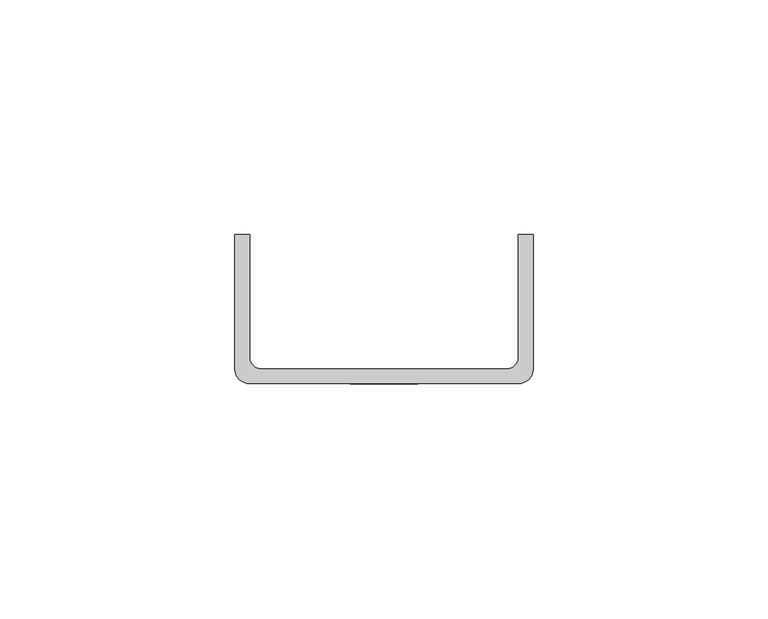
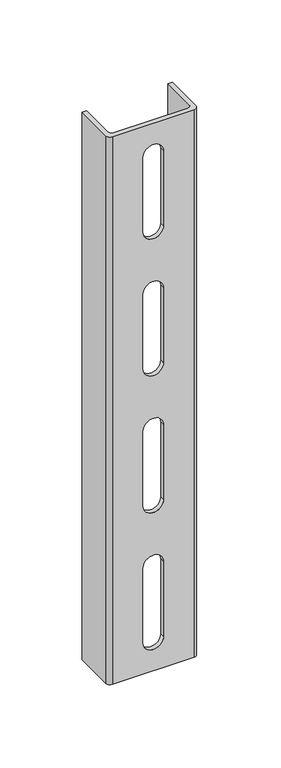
"""IFC4 building model written with IfcOpenShell, lengths in millimetres: proxy geometry, 14NSF-S13 : 14NSF-S13."""

import ifcopenshell
import ifcopenshell.guid

model = None  # the IFC model being written
_history = None  # IfcOwnerHistory: only IFC2X3 demands one
_inside = {}  # id of a spatial element -> (the spatial element, [elements in it])
_under = {}  # id of a project, library or spatial element -> (it, [spatial elements below it])
_declared = {}  # id of a project -> (the project, [libraries it declares])
_typed = {}  # id of a type object -> (the type object, [elements of that type])
_made_of = {}  # id of a material, layer set ... -> (it, [elements and type objects made of it])


def new_model(schema):
    """Start an empty IFC model of exactly this schema.

    Asked for "IFC4X3", IfcOpenShell would pick the latest addendum, in which some entities
    have other attributes; the version numbers below select the first issue.
    IFC2X3 requires an IfcOwnerHistory on every rooted entity: one is made here for all.
    """
    global model, _history
    if schema == "IFC4X3":
        model = ifcopenshell.file(schema_version=(4, 3, 0, 0))
    else:
        model = ifcopenshell.file(schema=schema)
    _inside.clear()
    _under.clear()
    _declared.clear()
    _typed.clear()
    _made_of.clear()
    _history = None
    if model.schema == "IFC2X3":
        org = make("IfcOrganization", Name="unknown")
        user = make(
            "IfcPersonAndOrganization",
            ThePerson=make("IfcPerson", FamilyName="unknown"),
            TheOrganization=org,
        )
        app = make(
            "IfcApplication",
            ApplicationDeveloper=org,
            Version="unknown",
            ApplicationFullName="unknown",
            ApplicationIdentifier="unknown",
        )
        _history = make(
            "IfcOwnerHistory",
            OwningUser=user,
            OwningApplication=app,
            ChangeAction="ADDED",
            CreationDate=0,
        )
    return model


def make(cls, **values):
    """One entity of the class cls with the attributes given. An attribute that is None is left unset."""
    return model.create_entity(
        cls, **{name: value for name, value in values.items() if value is not None}
    )


def rooted(cls, **values):
    """An entity with a GlobalId (a new one), such as an element, a storey or a relation."""
    return make(cls, GlobalId=ifcopenshell.guid.new(), OwnerHistory=_history, **values)


def si_unit(unit_type, name, prefix=None):
    """IfcSIUnit, for example si_unit("LENGTHUNIT", "METRE", prefix="MILLI")."""
    return make("IfcSIUnit", UnitType=unit_type, Prefix=prefix, Name=name)


def assignment(units):
    """IfcUnitAssignment: the units of a project."""
    return None if units is None else make("IfcUnitAssignment", Units=units)


def point(xyz):
    """IfcCartesianPoint."""
    return None if xyz is None else make("IfcCartesianPoint", Coordinates=xyz)


def direction(xyz):
    """IfcDirection."""
    return None if xyz is None else make("IfcDirection", DirectionRatios=xyz)


def frame(location, z_axis=None, x_axis=None):
    """IfcAxis2Placement3D, a coordinate frame: its origin and axes. An axis left out is left unset."""
    return make(
        "IfcAxis2Placement3D",
        Location=point(location),
        Axis=direction(z_axis),
        RefDirection=direction(x_axis),
    )


def origin():
    """The frame at (0, 0, 0) with its axes left unset."""
    return frame((0.0, 0.0, 0.0))


def place(relative_to, where):
    """IfcLocalPlacement: puts the frame where relative to a parent placement (None: the world)."""
    return make(
        "IfcLocalPlacement", PlacementRelTo=relative_to, RelativePlacement=where
    )


def context(
    kind, dimensions, precision=None, world=None, true_north=None, identifier=None
):
    """IfcGeometricRepresentationContext, for example the 3D "Model" context."""
    return make(
        "IfcGeometricRepresentationContext",
        ContextIdentifier=identifier,
        ContextType=kind,
        CoordinateSpaceDimension=dimensions,
        Precision=precision,
        WorldCoordinateSystem=world,
        TrueNorth=true_north,
    )


def project(units=None, contexts=None):
    """IfcProject with its units and contexts."""
    return rooted(
        "IfcProject",
        Name="project",
        RepresentationContexts=contexts,
        UnitsInContext=assignment(units),
    )


def spatial(cls, under=None, at=None, **own):
    """A site, building, storey or space (cls), placed at a placement, below another one or the project."""
    s = rooted(cls, ObjectPlacement=at, **own)
    if under is not None:
        _under.setdefault(under.id(), (under, []))[1].append(s)
    return s


def polyline(points):
    """IfcPolyline through the points."""
    return make("IfcPolyline", Points=[point(p) for p in points])


def circle_curve(where, radius):
    """IfcCircle in the frame where."""
    return make("IfcCircle", Position=where, Radius=radius)


def shape(context_of_items, identifier, shape_type, items):
    """IfcShapeRepresentation: the items that make up one representation, for example the "Body"."""
    return make(
        "IfcShapeRepresentation",
        ContextOfItems=context_of_items,
        RepresentationIdentifier=identifier,
        RepresentationType=shape_type,
        Items=items,
    )


def source(mapping_origin, context_of_items, identifier, shape_type, items):
    """IfcRepresentationMap: a shape defined once, which mapped items show again and again."""
    return make(
        "IfcRepresentationMap",
        MappingOrigin=mapping_origin,
        MappedRepresentation=shape(context_of_items, identifier, shape_type, items),
    )


def transform(
    local_origin,
    x_axis=None,
    y_axis=None,
    z_axis=None,
    scale=None,
    scale2=None,
    scale3=None,
    uniform=True,
):
    """IfcCartesianTransformationOperator3D, or its non-uniform kind. x_axis, y_axis, z_axis: its Axis1, 2, 3."""
    if uniform:
        return make(
            "IfcCartesianTransformationOperator3D",
            Axis1=direction(x_axis),
            Axis2=direction(y_axis),
            LocalOrigin=point(local_origin),
            Scale=scale,
            Axis3=direction(z_axis),
        )
    return make(
        "IfcCartesianTransformationOperator3DnonUniform",
        Axis1=direction(x_axis),
        Axis2=direction(y_axis),
        LocalOrigin=point(local_origin),
        Scale=scale,
        Axis3=direction(z_axis),
        Scale2=scale2,
        Scale3=scale3,
    )


def mapped(mapping_source, mapping_target):
    """IfcMappedItem: shows the shape of a source again, moved by a transform."""
    return make(
        "IfcMappedItem", MappingSource=mapping_source, MappingTarget=mapping_target
    )


def made_of(thing, what):
    """Note that an element or type object is made of a material, layer set ...; save() writes the relation."""
    if what is not None:
        _made_of.setdefault(what.id(), (what, []))[1].append(thing)
    return thing


def element(
    cls,
    number,
    at=None,
    inside=None,
    cuts=None,
    type_object=None,
    material=None,
    context=None,
    identifier="Body",
    shape_type=None,
    held_by="IfcProductDefinitionShape",
    body=None,
    shapes=None,
    **own,
):
    """One element of the class cls, such as IfcWall. Its Tag is "e" and its number.

    at: its placement. inside: the storey or other place that contains it. cuts: it is an
    opening in that element (IfcRelVoidsElement). A single representation is given by context,
    identifier, shape_type and body (its items); several are given by shapes. held_by: the class
    of the entity that holds the representations. save() writes the other relations.
    """
    e = rooted(cls, Tag="e%d" % number, ObjectPlacement=at, **own)
    if body is not None:
        shapes = [shape(context, identifier, shape_type, body)]
    if shapes is not None:
        e.Representation = make(held_by, Representations=shapes)
    if inside is not None:
        _inside.setdefault(inside.id(), (inside, []))[1].append(e)
    if cuts is not None:
        rooted(
            "IfcRelVoidsElement", RelatingBuildingElement=cuts, RelatedOpeningElement=e
        )
    if type_object is not None:
        _typed.setdefault(type_object.id(), (type_object, []))[1].append(e)
    return made_of(e, material)


def aggregate(whole, parts):
    """IfcRelAggregates: a whole, such as a stair, and the parts it consists of."""
    return rooted("IfcRelAggregates", RelatingObject=whole, RelatedObjects=parts)


def save(model, path):
    """Write the relations noted so far, then the file.

    IfcRelAggregates (storeys below a building ...), IfcRelContainedInSpatialStructure (elements
    in a storey), IfcRelDefinesByType, IfcRelAssociatesMaterial and IfcRelDeclares: one each for
    every whole, place, type object, material and project.
    """
    for whole, parts in _under.values():
        aggregate(whole, parts)
    for where, things in _inside.values():
        rooted(
            "IfcRelContainedInSpatialStructure",
            RelatedElements=things,
            RelatingStructure=where,
        )
    for kind, things in _typed.values():
        rooted("IfcRelDefinesByType", RelatedObjects=things, RelatingType=kind)
    for what, things in _made_of.values():
        rooted("IfcRelAssociatesMaterial", RelatedObjects=things, RelatingMaterial=what)
    for by, libraries in _declared.values():
        rooted("IfcRelDeclares", RelatingContext=by, RelatedDefinitions=libraries)
    model.write(path)


def plane_surface(at):
    """IfcPlane: the flat surface through the origin of the frame at, square to its z axis."""
    return make("IfcPlane", Position=at)


def cylinder_surface(at, radius):
    """IfcCylindricalSurface: all points at the distance radius from the z axis of the frame at."""
    return make("IfcCylindricalSurface", Position=at, Radius=radius)


def revolved_surface(curve, axis_point, axis_direction):
    """IfcSurfaceOfRevolution: the curve turned about the line through axis_point along axis_direction."""
    return make(
        "IfcSurfaceOfRevolution",
        SweptCurve=make("IfcArbitraryOpenProfileDef", ProfileType="CURVE", Curve=curve),
        AxisPosition=make("IfcAxis1Placement", Location=point(axis_point), Axis=direction(axis_direction)),
    )


def advanced_brep(points, edges, surfaces, faces):
    """IfcAdvancedBrep: a solid bounded by faces that lie on surfaces and meet in shared edges.

    An edge is (start, end): straight between two places in points (the first is 0);
    or (start, end, curve); or (start, end, curve, False) where it runs against its curve.
    A face is (place in surfaces, loops), or (place, loops, False) where it looks against
    its surface's normal. A loop lists edges by number (the first is 1), with a minus sign
    where the edge is run from its end to its start. The first loop is the outer one.
    """
    corners = [point(p) for p in points]
    vertices = [make("IfcVertexPoint", VertexGeometry=c) for c in corners]
    made = []
    for start, end, *more in edges:
        made.append(
            make(
                "IfcEdgeCurve",
                EdgeStart=vertices[start],
                EdgeEnd=vertices[end],
                EdgeGeometry=more[0] if more else make("IfcPolyline", Points=[corners[start], corners[end]]),
                SameSense=more[1] if len(more) > 1 else True,
            )
        )
    hull = []
    for where, loops, *sense in faces:
        bounds = []
        for j, loop in enumerate(loops):
            ring = [make("IfcOrientedEdge", EdgeElement=made[abs(k) - 1], Orientation=k > 0) for k in loop]
            bounds.append(
                make(
                    "IfcFaceOuterBound" if j == 0 else "IfcFaceBound",
                    Bound=make("IfcEdgeLoop", EdgeList=ring),
                    Orientation=True,
                )
            )
        hull.append(make("IfcAdvancedFace", Bounds=bounds, FaceSurface=surfaces[where], SameSense=sense[0] if sense else True))
    return make("IfcAdvancedBrep", Outer=make("IfcClosedShell", CfsFaces=hull))


def generic_models_709acf42(model_context):
    return source(origin(), model_context, "Body", "AdvancedBrep", [
        advanced_brep(
        [(-31.75, 31.75, 406.4), (-31.75, 3.175, 406.4), (-28.575, 0.0, 406.4), (28.575, 0.0, 406.4), (31.75, 3.175, 406.4), (31.75, 31.75, 406.4), (28.575, 31.75, 406.4), (28.575, 5.55625, 406.4), (26.19375, 3.175, 406.4), (-26.19375, 3.175, 406.4), (-28.575, 5.55625, 406.4), (-28.575, 31.75, 406.4), (-31.75, 3.175, 0.0), (-31.75, 31.75, 0.0), (-28.575, 31.75, 0.0), (-28.575, 5.55625, 0.0), (-26.19375, 3.175, 0.0), (26.19375, 3.175, 0.0), (28.575, 5.55625, 0.0), (28.575, 31.75, 0.0), (31.75, 31.75, 0.0), (31.75, 3.175, 0.0), (28.575, 0.0, 0.0), (-28.575, 0.0, 0.0), (7.14375, 0.0, 383.3874249), (7.14375, 0.0, 327.8125751), (-7.14375, 0.0, 327.8125751), (-7.14375, 0.0, 383.3874249), (7.14375, 0.0, 180.1874249), (7.14375, 0.0, 124.6125751), (-7.14375, 0.0, 124.6125751), (-7.14375, 0.0, 180.1874249), (7.14375, 0.0, 281.7874249), (7.14375, 0.0, 226.2125751), (-7.14375, 0.0, 226.2125751), (-7.14375, 0.0, 281.7874249), (7.14375, 0.0, 78.5874249), (7.14375, 0.0, 23.0125751), (-7.14375, 0.0, 23.0125751), (-7.14375, 0.0, 78.5874249), (7.14375, 3.175, 327.8125751), (7.14375, 3.175, 383.3874249), (-7.14375, 3.175, 383.3874249), (-7.14375, 3.175, 327.8125751), (7.14375, 3.175, 124.6125751), (7.14375, 3.175, 180.1874249), (-7.14375, 3.175, 180.1874249), (-7.14375, 3.175, 124.6125751), (7.14375, 3.175, 226.2125751), (7.14375, 3.175, 281.7874249), (-7.14375, 3.175, 281.7874249), (-7.14375, 3.175, 226.2125751), (7.14375, 3.175, 23.0125751), (7.14375, 3.175, 78.5874249), (-7.14375, 3.175, 78.5874249), (-7.14375, 3.175, 23.0125751)],
        [
            (0, 1),
            (1, 2, circle_curve(frame((-28.575, 3.175, 406.4), z_axis=(0.0, 0.0, 1.0), x_axis=(1.0, 0.0, 0.0)), 3.175)),
            (2, 3),
            (3, 4, circle_curve(frame((28.575, 3.175, 406.4), z_axis=(0.0, 0.0, 1.0), x_axis=(1.0, 0.0, 0.0)), 3.175)),
            (4, 5),
            (5, 6),
            (6, 7),
            (7, 8, circle_curve(frame((26.19375, 5.55625, 406.4), z_axis=(0.0, 0.0, -1.0), x_axis=(1.0, 0.0, 0.0)), 2.38125)),
            (8, 9),
            (9, 10, circle_curve(frame((-26.19375, 5.55625, 406.4), z_axis=(0.0, 0.0, -1.0), x_axis=(1.0, 0.0, 0.0)), 2.38125)),
            (10, 11),
            (11, 0),
            (12, 13),
            (13, 14),
            (14, 15),
            (15, 16, circle_curve(frame((-26.19375, 5.55625, 0.0), z_axis=(0.0, 0.0, 1.0), x_axis=(1.0, 0.0, 0.0)), 2.38125)),
            (16, 17),
            (17, 18, circle_curve(frame((26.19375, 5.55625, 0.0), z_axis=(0.0, 0.0, 1.0), x_axis=(1.0, 0.0, 0.0)), 2.38125)),
            (18, 19),
            (19, 20),
            (20, 21),
            (21, 22, circle_curve(frame((28.575, 3.175, 0.0), z_axis=(0.0, 0.0, -1.0), x_axis=(1.0, 0.0, 0.0)), 3.175)),
            (22, 23),
            (23, 12, circle_curve(frame((-28.575, 3.175, 0.0), z_axis=(0.0, 0.0, -1.0), x_axis=(1.0, 0.0, 0.0)), 3.175)),
            (0, 13),
            (12, 1),
            (23, 2),
            (22, 3),
            (24, 25),
            (25, 26, circle_curve(frame((0.0, 0.0, 327.8125751), z_axis=(0.0, 1.0, 0.0), x_axis=(1.0, 0.0, 0.0)), 7.14375)),
            (26, 27),
            (27, 24, circle_curve(frame((0.0, 0.0, 383.3874249), z_axis=(0.0, 1.0, 0.0), x_axis=(1.0, 0.0, 0.0)), 7.14375)),
            (28, 29),
            (29, 30, circle_curve(frame((0.0, 0.0, 124.6125751), z_axis=(0.0, 1.0, 0.0), x_axis=(1.0, 0.0, 0.0)), 7.14375)),
            (30, 31),
            (31, 28, circle_curve(frame((0.0, 0.0, 180.1874249), z_axis=(0.0, 1.0, 0.0), x_axis=(1.0, 0.0, 0.0)), 7.14375)),
            (32, 33),
            (33, 34, circle_curve(frame((0.0, 0.0, 226.2125751), z_axis=(0.0, 1.0, 0.0), x_axis=(1.0, 0.0, 0.0)), 7.14375)),
            (34, 35),
            (35, 32, circle_curve(frame((0.0, 0.0, 281.7874249), z_axis=(0.0, 1.0, 0.0), x_axis=(1.0, 0.0, 0.0)), 7.14375)),
            (36, 37),
            (37, 38, circle_curve(frame((0.0, 0.0, 23.0125751), z_axis=(0.0, 1.0, 0.0), x_axis=(1.0, 0.0, 0.0)), 7.14375)),
            (38, 39),
            (39, 36, circle_curve(frame((0.0, 0.0, 78.5874249), z_axis=(0.0, 1.0, 0.0), x_axis=(1.0, 0.0, 0.0)), 7.14375)),
            (21, 4),
            (20, 5),
            (6, 19),
            (18, 7),
            (17, 8),
            (16, 9),
            (40, 41),
            (41, 42, circle_curve(frame((0.0, 3.175, 383.3874249), z_axis=(0.0, -1.0, 0.0), x_axis=(1.0, 0.0, 0.0)), 7.14375)),
            (42, 43),
            (43, 40, circle_curve(frame((0.0, 3.175, 327.8125751), z_axis=(0.0, -1.0, 0.0), x_axis=(1.0, 0.0, 0.0)), 7.14375)),
            (44, 45),
            (45, 46, circle_curve(frame((0.0, 3.175, 180.1874249), z_axis=(0.0, -1.0, 0.0), x_axis=(1.0, 0.0, 0.0)), 7.14375)),
            (46, 47),
            (47, 44, circle_curve(frame((0.0, 3.175, 124.6125751), z_axis=(0.0, -1.0, 0.0), x_axis=(1.0, 0.0, 0.0)), 7.14375)),
            (48, 49),
            (49, 50, circle_curve(frame((0.0, 3.175, 281.7874249), z_axis=(0.0, -1.0, 0.0), x_axis=(1.0, 0.0, 0.0)), 7.14375)),
            (50, 51),
            (51, 48, circle_curve(frame((0.0, 3.175, 226.2125751), z_axis=(0.0, -1.0, 0.0), x_axis=(1.0, 0.0, 0.0)), 7.14375)),
            (52, 53),
            (53, 54, circle_curve(frame((0.0, 3.175, 78.5874249), z_axis=(0.0, -1.0, 0.0), x_axis=(1.0, 0.0, 0.0)), 7.14375)),
            (54, 55),
            (55, 52, circle_curve(frame((0.0, 3.175, 23.0125751), z_axis=(0.0, -1.0, 0.0), x_axis=(1.0, 0.0, 0.0)), 7.14375)),
            (15, 10),
            (14, 11),
            (24, 41),
            (40, 25),
            (27, 42),
            (26, 43),
            (44, 29),
            (28, 45),
            (31, 46),
            (30, 47),
            (48, 33),
            (32, 49),
            (35, 50),
            (34, 51),
            (52, 37),
            (36, 53),
            (39, 54),
            (38, 55),
        ],
        [
            plane_surface(frame((-25.4, 3.175, 406.4), z_axis=(0.0, 0.0, 1.0), x_axis=(0.0, 1.0, 0.0))),
            plane_surface(frame((-25.4, 3.175, 0.0), z_axis=(0.0, 0.0, -1.0), x_axis=(0.0, -1.0, 0.0))),
            plane_surface(frame((-31.75, 31.75, 406.4), z_axis=(-1.0, 0.0, 0.0), x_axis=(0.0, 0.0, -1.0))),
            cylinder_surface(frame((-28.575, 3.175, 0.0), z_axis=(0.0, 0.0, 1.0), x_axis=(1.0, 0.0, 0.0)), 3.175),
            plane_surface(frame((-28.575, 0.0, 406.4), z_axis=(0.0, -1.0, 0.0), x_axis=(0.0, 0.0, -1.0))),
            cylinder_surface(frame((28.575, 3.175, 0.0), z_axis=(0.0, 0.0, 1.0), x_axis=(1.0, 0.0, 0.0)), 3.175),
            plane_surface(frame((31.75, 3.175, 406.4), z_axis=(1.0, 0.0, 0.0), x_axis=(0.0, 0.0, -1.0))),
            plane_surface(frame((28.575, 31.75, 406.4), z_axis=(-1.0, 0.0, 0.0), x_axis=(0.0, 0.0, -1.0))),
            revolved_surface(polyline([(28.575000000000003, 5.55625, 0.0), (28.575000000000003, 5.55625, 406.4)]), (26.19375, 5.55625, 0.0), (0.0, 0.0, -1.0)),
            plane_surface(frame((26.19375, 3.175, 406.4), z_axis=(0.0, 1.0, 0.0), x_axis=(0.0, 0.0, -1.0))),
            revolved_surface(polyline([(-23.8125, 5.55625, 0.0), (-23.8125, 5.55625, 406.4)]), (-26.19375, 5.55625, 0.0), (0.0, 0.0, -1.0)),
            plane_surface(frame((-28.575, 5.55625, 406.4), z_axis=(1.0, 0.0, 0.0), x_axis=(0.0, 0.0, -1.0))),
            plane_surface(frame((7.14375, -3.175, 327.8125751), z_axis=(-1.0, 0.0, 0.0), x_axis=(0.0, 1.0, 0.0))),
            revolved_surface(polyline([(7.14375, 0.0, 383.3874249), (7.14375, 3.175, 383.3874249)]), (0.0, 3.175, 383.3874249), (0.0, -1.0, 0.0)),
            plane_surface(frame((-7.14375, -3.175, 383.3874249), z_axis=(1.0, 0.0, 0.0), x_axis=(0.0, 1.0, 0.0))),
            revolved_surface(polyline([(7.14375, 0.0, 327.8125751), (7.14375, 3.175, 327.8125751)]), (0.0, 3.175, 327.8125751), (0.0, -1.0, 0.0)),
            plane_surface(frame((7.14375, -3.175, 124.6125751), z_axis=(-1.0, 0.0, 0.0), x_axis=(0.0, 1.0, 0.0))),
            revolved_surface(polyline([(7.14375, 0.0, 180.1874249), (7.14375, 3.175, 180.1874249)]), (0.0, 3.175, 180.1874249), (0.0, -1.0, 0.0)),
            plane_surface(frame((-7.14375, -3.175, 180.1874249), z_axis=(1.0, 0.0, 0.0), x_axis=(0.0, 1.0, 0.0))),
            revolved_surface(polyline([(7.14375, 0.0, 124.6125751), (7.14375, 3.175, 124.6125751)]), (0.0, 3.175, 124.6125751), (0.0, -1.0, 0.0)),
            plane_surface(frame((7.14375, -3.175, 226.2125751), z_axis=(-1.0, 0.0, 0.0), x_axis=(0.0, 1.0, 0.0))),
            revolved_surface(polyline([(7.14375, 0.0, 281.7874249), (7.14375, 3.175, 281.7874249)]), (0.0, 3.175, 281.7874249), (0.0, -1.0, 0.0)),
            plane_surface(frame((-7.14375, -3.175, 281.7874249), z_axis=(1.0, 0.0, 0.0), x_axis=(0.0, 1.0, 0.0))),
            revolved_surface(polyline([(7.14375, 0.0, 226.2125751), (7.14375, 3.175, 226.2125751)]), (0.0, 3.175, 226.2125751), (0.0, -1.0, 0.0)),
            plane_surface(frame((31.75, 31.75, 406.4), z_axis=(0.0, 1.0, 0.0), x_axis=(0.0, 0.0, -1.0))),
            plane_surface(frame((-28.575, 31.75, 406.4), z_axis=(0.0, 1.0, 0.0), x_axis=(0.0, 0.0, -1.0))),
            plane_surface(frame((7.14375, -3.175, 23.0125751), z_axis=(-1.0, 0.0, 0.0), x_axis=(0.0, 1.0, 0.0))),
            revolved_surface(polyline([(7.14375, 0.0, 78.5874249), (7.14375, 3.175, 78.5874249)]), (0.0, 3.175, 78.5874249), (0.0, -1.0, 0.0)),
            plane_surface(frame((-7.14375, -3.175, 78.5874249), z_axis=(1.0, 0.0, 0.0), x_axis=(0.0, 1.0, 0.0))),
            revolved_surface(polyline([(7.14375, 0.0, 23.0125751), (7.14375, 3.175, 23.0125751)]), (0.0, 3.175, 23.0125751), (0.0, -1.0, 0.0)),
        ],
        [
            (0, [[1, 2, 3, 4, 5, 6, 7, 8, 9, 10, 11, 12]]),
            (1, [[13, 14, 15, 16, 17, 18, 19, 20, 21, 22, 23, 24]]),
            (2, [[-1, 25, -13, 26]]),
            (3, [[-2, -26, -24, 27]]),
            (4, [[-3, -27, -23, 28], [29, 30, 31, 32], [33, 34, 35, 36], [37, 38, 39, 40], [41, 42, 43, 44]]),
            (5, [[-4, -28, -22, 45]]),
            (6, [[-5, -45, -21, 46]]),
            (7, [[-7, 47, -19, 48]]),
            (8, [[-8, -48, -18, 49]]),
            (9, [[-9, -49, -17, 50], [51, 52, 53, 54], [55, 56, 57, 58], [59, 60, 61, 62], [63, 64, 65, 66]]),
            (10, [[-10, -50, -16, 67]]),
            (11, [[-11, -67, -15, 68]]),
            (12, [[69, -51, 70, -29]]),
            (13, [[-69, -32, 71, -52]]),
            (14, [[72, -53, -71, -31]]),
            (15, [[-70, -54, -72, -30]]),
            (16, [[73, -33, 74, -55]]),
            (17, [[-74, -36, 75, -56]]),
            (18, [[-75, -35, 76, -57]]),
            (19, [[-73, -58, -76, -34]]),
            (20, [[77, -37, 78, -59]]),
            (21, [[-78, -40, 79, -60]]),
            (22, [[-79, -39, 80, -61]]),
            (23, [[-77, -62, -80, -38]]),
            (24, [[-6, -46, -20, -47]]),
            (25, [[-12, -68, -14, -25]]),
            (26, [[81, -41, 82, -63]]),
            (27, [[-82, -44, 83, -64]]),
            (28, [[-83, -43, 84, -65]]),
            (29, [[-81, -66, -84, -42]]),
        ],
    ),
    ])


if __name__ == "__main__":
    model = new_model("IFC4")
    model_context = context("Model", 3, world=origin())
    ifc_project = project(units=[si_unit("LENGTHUNIT", "METRE", prefix="MILLI")], contexts=[model_context])
    site = spatial("IfcSite", under=ifc_project)
    building = spatial("IfcBuilding", under=site)
    placement = place(None, origin())
    generic_models_shape = generic_models_709acf42(model_context)
    element("IfcBuildingElementProxy", 1, Name="14NSF-S13 : 14NSF-S13", ObjectType="14NSF-S13 : 14NSF-S13", at=placement, inside=building, context=model_context, shape_type="MappedRepresentation", body=[
        mapped(generic_models_shape, transform((0.0, 0.0, 0.0), x_axis=(1.0, 0.0, 0.0), y_axis=(0.0, 1.0, 0.0), z_axis=(0.0, 0.0, 1.0))),
    ])
    save(model, "model.ifc")
